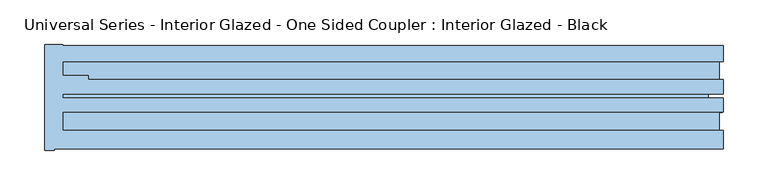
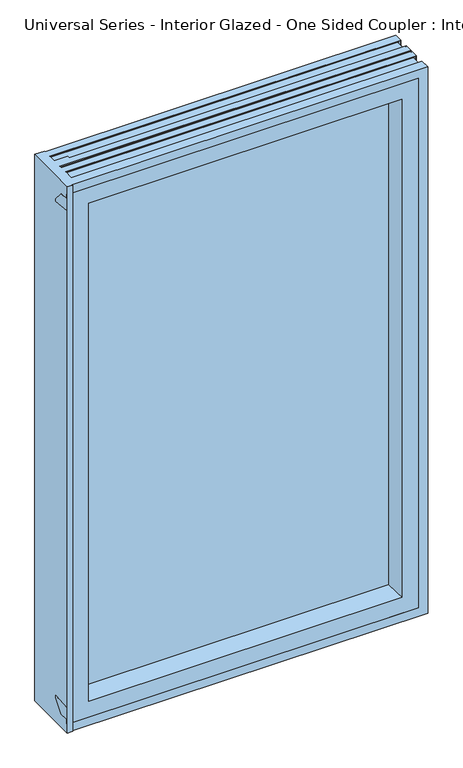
"""IFC4 building model written with IfcOpenShell, lengths in millimetres: window geometry, Universal Series - Interior Glazed - One Sided Coupler : Interior Glazed - Black."""

import ifcopenshell
import ifcopenshell.guid

model = None  # the IFC model being written
_history = None  # IfcOwnerHistory: only IFC2X3 demands one
_inside = {}  # id of a spatial element -> (the spatial element, [elements in it])
_under = {}  # id of a project, library or spatial element -> (it, [spatial elements below it])
_declared = {}  # id of a project -> (the project, [libraries it declares])
_typed = {}  # id of a type object -> (the type object, [elements of that type])
_made_of = {}  # id of a material, layer set ... -> (it, [elements and type objects made of it])


def new_model(schema):
    """Start an empty IFC model of exactly this schema.

    Asked for "IFC4X3", IfcOpenShell would pick the latest addendum, in which some entities
    have other attributes; the version numbers below select the first issue.
    IFC2X3 requires an IfcOwnerHistory on every rooted entity: one is made here for all.
    """
    global model, _history
    if schema == "IFC4X3":
        model = ifcopenshell.file(schema_version=(4, 3, 0, 0))
    else:
        model = ifcopenshell.file(schema=schema)
    _inside.clear()
    _under.clear()
    _declared.clear()
    _typed.clear()
    _made_of.clear()
    _history = None
    if model.schema == "IFC2X3":
        org = make("IfcOrganization", Name="unknown")
        user = make(
            "IfcPersonAndOrganization",
            ThePerson=make("IfcPerson", FamilyName="unknown"),
            TheOrganization=org,
        )
        app = make(
            "IfcApplication",
            ApplicationDeveloper=org,
            Version="unknown",
            ApplicationFullName="unknown",
            ApplicationIdentifier="unknown",
        )
        _history = make(
            "IfcOwnerHistory",
            OwningUser=user,
            OwningApplication=app,
            ChangeAction="ADDED",
            CreationDate=0,
        )
    return model


def make(cls, **values):
    """One entity of the class cls with the attributes given. An attribute that is None is left unset."""
    return model.create_entity(
        cls, **{name: value for name, value in values.items() if value is not None}
    )


def rooted(cls, **values):
    """An entity with a GlobalId (a new one), such as an element, a storey or a relation."""
    return make(cls, GlobalId=ifcopenshell.guid.new(), OwnerHistory=_history, **values)


def si_unit(unit_type, name, prefix=None):
    """IfcSIUnit, for example si_unit("LENGTHUNIT", "METRE", prefix="MILLI")."""
    return make("IfcSIUnit", UnitType=unit_type, Prefix=prefix, Name=name)


def assignment(units):
    """IfcUnitAssignment: the units of a project."""
    return None if units is None else make("IfcUnitAssignment", Units=units)


def point(xyz):
    """IfcCartesianPoint."""
    return None if xyz is None else make("IfcCartesianPoint", Coordinates=xyz)


def direction(xyz):
    """IfcDirection."""
    return None if xyz is None else make("IfcDirection", DirectionRatios=xyz)


def frame(location, z_axis=None, x_axis=None):
    """IfcAxis2Placement3D, a coordinate frame: its origin and axes. An axis left out is left unset."""
    return make(
        "IfcAxis2Placement3D",
        Location=point(location),
        Axis=direction(z_axis),
        RefDirection=direction(x_axis),
    )


def origin():
    """The frame at (0, 0, 0) with its axes left unset."""
    return frame((0.0, 0.0, 0.0))


def place(relative_to, where):
    """IfcLocalPlacement: puts the frame where relative to a parent placement (None: the world)."""
    return make(
        "IfcLocalPlacement", PlacementRelTo=relative_to, RelativePlacement=where
    )


def context(
    kind, dimensions, precision=None, world=None, true_north=None, identifier=None
):
    """IfcGeometricRepresentationContext, for example the 3D "Model" context."""
    return make(
        "IfcGeometricRepresentationContext",
        ContextIdentifier=identifier,
        ContextType=kind,
        CoordinateSpaceDimension=dimensions,
        Precision=precision,
        WorldCoordinateSystem=world,
        TrueNorth=true_north,
    )


def project(units=None, contexts=None):
    """IfcProject with its units and contexts."""
    return rooted(
        "IfcProject",
        Name="project",
        RepresentationContexts=contexts,
        UnitsInContext=assignment(units),
    )


def spatial(cls, under=None, at=None, **own):
    """A site, building, storey or space (cls), placed at a placement, below another one or the project."""
    s = rooted(cls, ObjectPlacement=at, **own)
    if under is not None:
        _under.setdefault(under.id(), (under, []))[1].append(s)
    return s


def polyline(points):
    """IfcPolyline through the points."""
    return make("IfcPolyline", Points=[point(p) for p in points])


def circle_curve(where, radius):
    """IfcCircle in the frame where."""
    return make("IfcCircle", Position=where, Radius=radius)


def ellipse_curve(where, semi_axis1, semi_axis2):
    """IfcEllipse in the frame where."""
    return make(
        "IfcEllipse", Position=where, SemiAxis1=semi_axis1, SemiAxis2=semi_axis2
    )


def outline(outer, holes=None, kind="AREA"):
    """IfcArbitraryClosedProfileDef: a profile drawn as a closed curve; with holes, ...WithVoids."""
    if holes is None:
        return make("IfcArbitraryClosedProfileDef", ProfileType=kind, OuterCurve=outer)
    return make(
        "IfcArbitraryProfileDefWithVoids",
        ProfileType=kind,
        OuterCurve=outer,
        InnerCurves=holes,
    )


def extrude(swept, where, along, depth):
    """IfcExtrudedAreaSolid: the profile swept, set in the frame where, extruded along a direction by depth."""
    return make(
        "IfcExtrudedAreaSolid",
        SweptArea=swept,
        Position=where,
        ExtrudedDirection=direction(along),
        Depth=depth,
    )


def faces_of(points, faces, orient=None, outer=None):
    """IfcFace entities. A face is a list of loops; a loop is a list of indices into points, from 0.

    orient and outer hold one flag for each loop. By default every Orientation is true, the
    first loop of a face is its IfcFaceOuterBound and the others are IfcFaceBound.
    """
    made = []
    for i, loops in enumerate(faces):
        bounds = []
        for j, loop in enumerate(loops):
            is_outer = j == 0 if outer is None else outer[i][j]
            bounds.append(
                make(
                    "IfcFaceOuterBound" if is_outer else "IfcFaceBound",
                    Bound=make("IfcPolyLoop", Polygon=[points[k] for k in loop]),
                    Orientation=True if orient is None else orient[i][j],
                )
            )
        made.append(make("IfcFace", Bounds=bounds))
    return made


def faceted_brep(points, faces, orient=None, outer=None, voids=None):
    """IfcFacetedBrep: a solid bounded by flat faces; with voids (closed shells), ...WithVoids."""
    shared = [point(p) for p in points]
    hull = make("IfcClosedShell", CfsFaces=faces_of(shared, faces, orient, outer))
    if voids is None:
        return make("IfcFacetedBrep", Outer=hull)
    return make(
        "IfcFacetedBrepWithVoids",
        Outer=hull,
        Voids=[
            make(cls, CfsFaces=faces_of(shared, fs, o, b)) for cls, fs, o, b in voids
        ],
    )


def shape(context_of_items, identifier, shape_type, items):
    """IfcShapeRepresentation: the items that make up one representation, for example the "Body"."""
    return make(
        "IfcShapeRepresentation",
        ContextOfItems=context_of_items,
        RepresentationIdentifier=identifier,
        RepresentationType=shape_type,
        Items=items,
    )


def source(mapping_origin, context_of_items, identifier, shape_type, items):
    """IfcRepresentationMap: a shape defined once, which mapped items show again and again."""
    return make(
        "IfcRepresentationMap",
        MappingOrigin=mapping_origin,
        MappedRepresentation=shape(context_of_items, identifier, shape_type, items),
    )


def transform(
    local_origin,
    x_axis=None,
    y_axis=None,
    z_axis=None,
    scale=None,
    scale2=None,
    scale3=None,
    uniform=True,
):
    """IfcCartesianTransformationOperator3D, or its non-uniform kind. x_axis, y_axis, z_axis: its Axis1, 2, 3."""
    if uniform:
        return make(
            "IfcCartesianTransformationOperator3D",
            Axis1=direction(x_axis),
            Axis2=direction(y_axis),
            LocalOrigin=point(local_origin),
            Scale=scale,
            Axis3=direction(z_axis),
        )
    return make(
        "IfcCartesianTransformationOperator3DnonUniform",
        Axis1=direction(x_axis),
        Axis2=direction(y_axis),
        LocalOrigin=point(local_origin),
        Scale=scale,
        Axis3=direction(z_axis),
        Scale2=scale2,
        Scale3=scale3,
    )


def mapped(mapping_source, mapping_target):
    """IfcMappedItem: shows the shape of a source again, moved by a transform."""
    return make(
        "IfcMappedItem", MappingSource=mapping_source, MappingTarget=mapping_target
    )


def made_of(thing, what):
    """Note that an element or type object is made of a material, layer set ...; save() writes the relation."""
    if what is not None:
        _made_of.setdefault(what.id(), (what, []))[1].append(thing)
    return thing


def element(
    cls,
    number,
    at=None,
    inside=None,
    cuts=None,
    type_object=None,
    material=None,
    context=None,
    identifier="Body",
    shape_type=None,
    held_by="IfcProductDefinitionShape",
    body=None,
    shapes=None,
    **own,
):
    """One element of the class cls, such as IfcWall. Its Tag is "e" and its number.

    at: its placement. inside: the storey or other place that contains it. cuts: it is an
    opening in that element (IfcRelVoidsElement). A single representation is given by context,
    identifier, shape_type and body (its items); several are given by shapes. held_by: the class
    of the entity that holds the representations. save() writes the other relations.
    """
    e = rooted(cls, Tag="e%d" % number, ObjectPlacement=at, **own)
    if body is not None:
        shapes = [shape(context, identifier, shape_type, body)]
    if shapes is not None:
        e.Representation = make(held_by, Representations=shapes)
    if inside is not None:
        _inside.setdefault(inside.id(), (inside, []))[1].append(e)
    if cuts is not None:
        rooted(
            "IfcRelVoidsElement", RelatingBuildingElement=cuts, RelatedOpeningElement=e
        )
    if type_object is not None:
        _typed.setdefault(type_object.id(), (type_object, []))[1].append(e)
    return made_of(e, material)


def aggregate(whole, parts):
    """IfcRelAggregates: a whole, such as a stair, and the parts it consists of."""
    return rooted("IfcRelAggregates", RelatingObject=whole, RelatedObjects=parts)


def save(model, path):
    """Write the relations noted so far, then the file.

    IfcRelAggregates (storeys below a building ...), IfcRelContainedInSpatialStructure (elements
    in a storey), IfcRelDefinesByType, IfcRelAssociatesMaterial and IfcRelDeclares: one each for
    every whole, place, type object, material and project.
    """
    for whole, parts in _under.values():
        aggregate(whole, parts)
    for where, things in _inside.values():
        rooted(
            "IfcRelContainedInSpatialStructure",
            RelatedElements=things,
            RelatingStructure=where,
        )
    for kind, things in _typed.values():
        rooted("IfcRelDefinesByType", RelatedObjects=things, RelatingType=kind)
    for what, things in _made_of.values():
        rooted("IfcRelAssociatesMaterial", RelatedObjects=things, RelatingMaterial=what)
    for by, libraries in _declared.values():
        rooted("IfcRelDeclares", RelatingContext=by, RelatedDefinitions=libraries)
    model.write(path)


def plane_surface(at):
    """IfcPlane: the flat surface through the origin of the frame at, square to its z axis."""
    return make("IfcPlane", Position=at)


def revolved_surface(curve, axis_point, axis_direction):
    """IfcSurfaceOfRevolution: the curve turned about the line through axis_point along axis_direction."""
    return make(
        "IfcSurfaceOfRevolution",
        SweptCurve=make("IfcArbitraryOpenProfileDef", ProfileType="CURVE", Curve=curve),
        AxisPosition=make("IfcAxis1Placement", Location=point(axis_point), Axis=direction(axis_direction)),
    )


def advanced_brep(points, edges, surfaces, faces):
    """IfcAdvancedBrep: a solid bounded by faces that lie on surfaces and meet in shared edges.

    An edge is (start, end): straight between two places in points (the first is 0);
    or (start, end, curve); or (start, end, curve, False) where it runs against its curve.
    A face is (place in surfaces, loops), or (place, loops, False) where it looks against
    its surface's normal. A loop lists edges by number (the first is 1), with a minus sign
    where the edge is run from its end to its start. The first loop is the outer one.
    """
    corners = [point(p) for p in points]
    vertices = [make("IfcVertexPoint", VertexGeometry=c) for c in corners]
    made = []
    for start, end, *more in edges:
        made.append(
            make(
                "IfcEdgeCurve",
                EdgeStart=vertices[start],
                EdgeEnd=vertices[end],
                EdgeGeometry=more[0] if more else make("IfcPolyline", Points=[corners[start], corners[end]]),
                SameSense=more[1] if len(more) > 1 else True,
            )
        )
    hull = []
    for where, loops, *sense in faces:
        bounds = []
        for j, loop in enumerate(loops):
            ring = [make("IfcOrientedEdge", EdgeElement=made[abs(k) - 1], Orientation=k > 0) for k in loop]
            bounds.append(
                make(
                    "IfcFaceOuterBound" if j == 0 else "IfcFaceBound",
                    Bound=make("IfcEdgeLoop", EdgeList=ring),
                    Orientation=True,
                )
            )
        hull.append(make("IfcAdvancedFace", Bounds=bounds, FaceSurface=surfaces[where], SameSense=sense[0] if sense else True))
    return make("IfcAdvancedBrep", Outer=make("IfcClosedShell", CfsFaces=hull))


def universal_series_interior_glazed_one_sided_coupler_interior_eb198598(model_context):
    return source(origin(), model_context, "Body", "SolidModel", [
        faceted_brep([(-304.8, 30.15, 815.975), (-304.8, 71.425, 820.7375), (-304.8, 71.425, 814.3875), (-304.8, 50.7875, 790.575), (-304.8, 31.7375, 790.575), (-304.8, 31.7375, 781.05), (-304.8, 30.15, 781.05), (-284.1625, 31.7375, 781.05), (-284.1625, 50.7875, 781.05), (-260.35, 71.425, 781.05), (-254.0, 71.425, 781.05), (-258.5793269, 31.7375, 781.05), (438.15, 31.7375, 781.05), (438.15, 30.15, 781.05), (-284.1625, 31.7375, 790.575), (438.15, 31.7375, 1962.15), (-258.5793269, 31.7375, 790.575), (428.625, 31.7375, 790.575), (428.625, 31.7375, 1952.625), (-258.5793269, 31.7375, 1952.625), (-258.5793269, 31.7375, 1962.15), (-284.1625, 31.7375, 1927.0418269), (-284.1625, 31.7375, 816.1581731), (-293.6875, 31.7375, 816.1581731), (-293.6875, 31.7375, 1927.0418269), (-304.8, 31.7375, 1962.15), (-284.1625, 31.7375, 1962.15), (-284.1625, 31.7375, 1952.625), (-304.8, 31.7375, 1952.625), (-284.1625, 50.7875, 790.575), (-284.1625, 50.7875, 1924.84375), (-284.1625, 50.7875, 818.35625), (-284.1625, 50.7875, 1962.15), (-284.1625, 50.7875, 1952.625), (-260.35, 71.425, 814.3875), (-260.35, 71.425, 1922.4625), (-260.35, 71.425, 820.7375), (-260.35, 71.425, 1962.15), (-260.35, 71.425, 1928.8125), (-254.0, 71.425, 1962.15), (-254.0, 71.425, 1928.8125), (404.8125, 71.425, 1928.8125), (404.8125, 71.425, 814.3875), (-254.0, 71.425, 814.3875), (-304.8, 71.425, 1922.4625), (-304.8, 71.425, 1928.8125), (-254.0, 71.425, 1922.4625), (-254.0, 71.425, 820.7375), (398.4625, 71.425, 820.7375), (398.4625, 71.425, 1922.4625), (-256.38125, 50.7875, 790.575), (-258.7625, 30.15, 1927.225), (-258.7625, 30.15, 815.975), (-256.38125, 50.7875, 1952.625), (438.15, 30.15, 1962.15), (-304.8, 30.15, 1962.15), (-304.8, 30.15, 1927.225), (-293.6875, 30.15, 1927.225), (-293.6875, 30.15, 815.975), (403.225, 30.15, 1927.225), (403.225, 30.15, 815.975), (428.625, 50.7875, 790.575), (428.625, 50.7875, 1952.625), (-304.8, 50.7875, 1952.625)], [[[0, 1, 2, 3, 4, 5, 6]], [[6, 5, 7, 8, 9, 10, 11, 12, 13]], [[7, 5, 4, 14]], [[15, 12, 11, 16, 17, 18, 19, 20]], [[21, 22, 23, 24]], [[25, 26, 27, 28]], [[8, 7, 14, 29]], [[30, 31, 22, 21]], [[26, 32, 33, 27]], [[9, 8, 29, 34]], [[35, 36, 31, 30]], [[32, 37, 38, 33]], [[37, 39, 40, 41, 42, 43, 10, 9, 34, 2, 1, 36, 35, 44, 45, 38], [46, 47, 48, 49]], [[11, 10, 43, 50, 16]], [[51, 52, 47, 46]], [[39, 20, 19, 53, 40]], [[13, 12, 15, 54]], [[54, 55, 56, 57, 58, 0, 6, 13], [52, 51, 59, 60]], [[1, 0, 58, 23, 22, 31, 36]], [[60, 48, 47, 52]], [[3, 2, 34, 29]], [[42, 61, 50, 43]], [[14, 4, 3, 29]], [[61, 17, 16, 50]], [[61, 42, 41, 62]], [[48, 60, 59, 49]], [[17, 61, 62, 18]], [[24, 23, 58, 57]], [[39, 37, 32, 26, 25, 55, 54, 15, 20]], [[45, 44, 56, 55, 25, 28, 63]], [[56, 44, 35, 30, 21, 24, 57]], [[49, 59, 51, 46]], [[63, 28, 27, 33]], [[18, 62, 53, 19]], [[45, 63, 33, 38]], [[62, 41, 40, 53]]]),
        advanced_brep(
        [(-293.6875, 28.5625, 1981.2), (-304.8, 28.5625, 1981.2), (-304.8, 28.5625, 762.0), (-293.6875, 28.5625, 762.0), (-304.8, 147.625, 1981.2), (-304.8, 147.625, 762.0), (-284.1625, 147.625, 1981.2), (-284.1625, 147.625, 762.0), (-284.1625, 146.0375, 762.0), (457.2, 146.0375, 762.0), (457.2, 128.575, 762.0), (-284.1625, 128.575, 762.0), (-284.1625, 112.7, 762.0), (-255.5875, 112.7, 762.0), (-255.5875, 107.9375, 762.0), (457.2, 107.9375, 762.0), (457.2, 92.0625, 762.0), (-284.1625, 92.0625, 762.0), (-284.1625, 87.3, 762.0), (457.2, 87.3, 762.0), (457.2, 71.425, 762.0), (-284.1625, 71.425, 762.0), (-284.1625, 50.7875, 762.0), (457.2, 50.7875, 762.0), (457.2, 30.15, 762.0), (-293.6875, 30.15, 762.0), (-284.1625, 112.7, 766.7625), (-255.5875, 112.7, 766.7625), (428.625, 112.7, 1952.625), (428.625, 112.7, 790.575), (-284.1625, 112.7, 790.575), (-284.1625, 112.7, 1952.625), (400.05, 112.7, 1924.05), (-255.5875, 112.7, 1924.05), (-255.5875, 112.7, 819.15), (400.05, 112.7, 819.15), (-284.1625, 112.7, 1981.2), (-255.5875, 112.7, 1981.2), (-255.5875, 112.7, 1976.4375), (-284.1625, 112.7, 1976.4375), (428.625, 146.0375, 790.575), (-284.1625, 146.0375, 790.575), (428.625, 146.0375, 1952.625), (457.2, 146.0375, 1981.2), (-284.1625, 146.0375, 1952.625), (-284.1625, 146.0375, 1981.2), (-284.1625, 128.575, 763.190625), (-284.1625, 131.75, 764.778125), (-284.1625, 131.75, 766.7625), (-284.1625, 128.575, 1981.2), (-284.1625, 131.75, 1976.4375), (-284.1625, 131.75, 1978.421875), (-284.1625, 128.575, 1980.009375), (400.05, 100.0, 819.15), (400.05, 100.0, 1924.05), (-255.5875, 100.0, 819.15), (-255.5875, 104.7625, 766.7625), (-255.5875, 104.7625, 764.778125), (-255.5875, 107.9375, 763.190625), (-255.5875, 100.0, 1924.05), (-255.5875, 107.9375, 1981.2), (-255.5875, 107.9375, 1980.009375), (-255.5875, 104.7625, 1978.421875), (-255.5875, 104.7625, 1976.4375), (428.625, 100.0, 790.575), (428.625, 100.0, 1952.625), (-284.1625, 100.0, 1952.625), (-284.1625, 100.0, 790.575), (428.625, 44.4375, 790.575), (428.625, 44.4375, 1952.625), (-284.1625, 44.4375, 790.575), (-284.1625, 92.0625, 763.5875), (-284.1625, 87.3, 763.5875), (-284.1625, 71.425, 763.190625), (-284.1625, 74.6, 764.778125), (-284.1625, 74.6, 766.7625), (-284.1625, 47.6125, 766.7625), (-284.1625, 47.6125, 764.778125), (-284.1625, 50.7875, 763.190625), (-284.1625, 44.4375, 1952.625), (-284.1625, 71.425, 1981.2), (-284.1625, 50.7875, 1981.2), (-284.1625, 50.7875, 1980.009375), (-284.1625, 47.6125, 1978.421875), (-284.1625, 47.6125, 1976.4375), (-284.1625, 74.6, 1976.4375), (-284.1625, 74.6, 1978.421875), (-284.1625, 71.425, 1980.009375), (-284.1625, 92.0625, 1981.2), (-284.1625, 87.3, 1981.2), (-284.1625, 87.3, 1979.6125), (-284.1625, 92.0625, 1979.6125), (438.15, 44.4375, 781.05), (438.15, 44.4375, 1962.15), (-293.6875, 44.4375, 1962.15), (-293.6875, 44.4375, 781.05), (452.4375, 131.75, 766.7625), (452.4375, 104.7625, 766.7625), (438.15, 30.15, 1962.15), (438.15, 30.15, 781.05), (-293.6875, 30.15, 781.05), (457.2, 30.15, 1981.2), (-293.6875, 30.15, 1981.2), (-293.6875, 30.15, 1962.15), (457.2, 50.7875, 1981.2), (457.2, 128.575, 1981.2), (456.009375, 71.425, 1980.009375), (456.009375, 71.425, 763.190625), (457.2, 71.425, 1981.2), (454.421875, 74.6, 764.778125), (452.4375, 74.6, 1976.4375), (452.4375, 74.6, 766.7625), (454.421875, 74.6, 1978.421875), (452.4375, 47.6125, 766.7625), (454.421875, 47.6125, 1978.421875), (454.421875, 47.6125, 764.778125), (452.4375, 47.6125, 1976.4375), (456.009375, 50.7875, 763.190625), (456.009375, 50.7875, 1980.009375), (455.6125, 92.0625, 1979.6125), (455.6125, 92.0625, 763.5875), (457.2, 92.0625, 1981.2), (455.6125, 87.3, 763.5875), (457.2, 87.3, 1981.2), (455.6125, 87.3, 1979.6125), (454.421875, 104.7625, 1978.421875), (454.421875, 104.7625, 764.778125), (452.4375, 104.7625, 1976.4375), (456.009375, 107.9375, 763.190625), (457.2, 107.9375, 1981.2), (456.009375, 107.9375, 1980.009375), (456.009375, 128.575, 1980.009375), (456.009375, 128.575, 763.190625), (454.421875, 131.75, 764.778125), (452.4375, 131.75, 1976.4375), (454.421875, 131.75, 1978.421875)],
        [
            (0, 1),
            (1, 2),
            (2, 3),
            (3, 0),
            (1, 4),
            (4, 5),
            (5, 2),
            (4, 6),
            (6, 7),
            (7, 5),
            (7, 8),
            (8, 9),
            (9, 10),
            (10, 11),
            (11, 12),
            (12, 13),
            (13, 14),
            (14, 15),
            (15, 16),
            (16, 17),
            (17, 18),
            (18, 19),
            (19, 20),
            (20, 21),
            (21, 22),
            (22, 23),
            (23, 24),
            (24, 25),
            (25, 3),
            (12, 26),
            (26, 27),
            (27, 13),
            (28, 29),
            (29, 30),
            (30, 31),
            (31, 28),
            (32, 33),
            (33, 34),
            (34, 35),
            (35, 32),
            (36, 37),
            (37, 38),
            (38, 39),
            (39, 36),
            (29, 40),
            (40, 41),
            (41, 30),
            (28, 42),
            (42, 40),
            (43, 9),
            (8, 41),
            (42, 44),
            (44, 45),
            (45, 43),
            (6, 45),
            (44, 31),
            (11, 46),
            (46, 47),
            (47, 48),
            (48, 26),
            (49, 36),
            (39, 50),
            (50, 51),
            (51, 52),
            (52, 49),
            (35, 53),
            (53, 54),
            (54, 32),
            (34, 55),
            (55, 53),
            (27, 56),
            (56, 57),
            (57, 58),
            (58, 14),
            (33, 59),
            (59, 55),
            (37, 60),
            (60, 61),
            (61, 62),
            (62, 63),
            (63, 38),
            (64, 65),
            (65, 66),
            (66, 67),
            (67, 64),
            (59, 54),
            (64, 68),
            (68, 69),
            (69, 65),
            (67, 70),
            (70, 68),
            (17, 71),
            (71, 72, circle_curve(frame((-284.1625, 89.68125, 771.1593924), z_axis=(1.0, 0.0, 0.0), x_axis=(0.0, -1.0, 0.0)), 7.9375)),
            (72, 18),
            (21, 73),
            (73, 74),
            (74, 75),
            (75, 76),
            (76, 77),
            (77, 78),
            (78, 22),
            (66, 79),
            (79, 70),
            (80, 81),
            (81, 82),
            (82, 83),
            (83, 84),
            (84, 85),
            (85, 86),
            (86, 87),
            (87, 80),
            (88, 89),
            (89, 90),
            (90, 91, circle_curve(frame((-284.1625, 89.68125, 1972.0406076), z_axis=(1.0, 0.0, 0.0), x_axis=(0.0, -1.0, 0.0)), 7.9375)),
            (91, 88),
            (92, 93),
            (93, 94),
            (94, 95),
            (95, 92),
            (79, 69),
            (96, 97),
            (97, 56),
            (48, 96),
            (98, 99),
            (99, 100),
            (100, 25),
            (24, 101),
            (101, 102),
            (102, 103),
            (103, 98),
            (98, 93),
            (92, 99),
            (95, 100),
            (94, 103),
            (102, 0),
            (23, 104),
            (104, 101),
            (43, 105),
            (105, 10),
            (106, 107),
            (107, 73),
            (20, 108),
            (108, 80),
            (87, 106),
            (107, 109),
            (109, 74),
            (110, 111),
            (111, 75),
            (109, 112),
            (112, 86),
            (85, 110),
            (111, 113),
            (113, 76),
            (114, 115),
            (115, 77),
            (113, 116),
            (116, 84),
            (83, 114),
            (115, 117),
            (117, 78),
            (117, 118),
            (118, 82),
            (81, 104),
            (119, 120),
            (120, 71),
            (16, 121),
            (121, 88),
            (91, 119),
            (120, 122, ellipse_curve(frame((448.0406076, 89.68125, 771.1593924), z_axis=(0.7071067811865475, 0.0, 0.7071067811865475), x_axis=(-0.7071067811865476, 0.0, 0.7071067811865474)), 11.2253202, 7.9375)),
            (122, 72),
            (123, 19),
            (122, 124),
            (124, 90),
            (89, 123),
            (125, 126),
            (126, 57),
            (97, 127),
            (127, 63),
            (62, 125),
            (126, 128),
            (128, 58),
            (129, 15),
            (128, 130),
            (130, 61),
            (60, 129),
            (131, 132),
            (132, 46),
            (105, 49),
            (52, 131),
            (132, 133),
            (133, 47),
            (134, 96),
            (133, 135),
            (135, 51),
            (50, 134),
            (114, 118),
            (110, 116),
            (106, 112),
            (123, 108),
            (119, 124, ellipse_curve(frame((448.0406076, 89.68125, 1972.0406076), z_axis=(-0.7071067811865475, 0.0, 0.7071067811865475), x_axis=(-0.7071067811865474, 0.0, -0.7071067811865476)), 11.2253202, 7.9375)),
            (129, 121),
            (125, 130),
            (134, 127),
            (131, 135),
        ],
        [
            plane_surface(frame((-304.8, 28.5625, 1981.2), z_axis=(0.0, -1.0, 0.0), x_axis=(0.0, 0.0, -1.0))),
            plane_surface(frame((-304.8, 100.0, 1981.2), z_axis=(-1.0, 0.0, 0.0), x_axis=(0.0, -1.0, 0.0))),
            plane_surface(frame((-284.1625, 147.625, 1981.2), z_axis=(0.0, 1.0, 0.0), x_axis=(0.0, 0.0, -1.0))),
            plane_surface(frame((457.2, 30.15, 762.0), z_axis=(0.0, 0.0, -1.0), x_axis=(-1.0, 0.0, 0.0))),
            plane_surface(frame((-304.8, 112.7, 1952.625), z_axis=(0.0, 1.0, 0.0), x_axis=(1.0, 0.0, 0.0))),
            plane_surface(frame((428.625, 146.0375, 790.575), z_axis=(0.0, 0.0, 1.0), x_axis=(-1.0, 0.0, 0.0))),
            plane_surface(frame((428.625, 146.0375, 1952.625), z_axis=(-1.0, 0.0, 0.0), x_axis=(0.0, 0.0, -1.0))),
            plane_surface(frame((-304.8, 146.0375, 1981.2), z_axis=(0.0, 1.0, 0.0), x_axis=(1.0, 0.0, 0.0))),
            plane_surface(frame((-284.1625, 112.7, 1981.2), z_axis=(1.0, 0.0, 0.0), x_axis=(0.0, 0.0, -1.0))),
            plane_surface(frame((400.05, 112.7, 1924.05), z_axis=(-1.0, 0.0, 0.0), x_axis=(0.0, 0.0, -1.0))),
            plane_surface(frame((400.05, 112.7, 819.15), z_axis=(0.0, 0.0, 1.0), x_axis=(-1.0, 0.0, 0.0))),
            plane_surface(frame((-255.5875, 100.0, 1981.2), z_axis=(1.0, 0.0, 0.0), x_axis=(0.0, 0.0, -1.0))),
            plane_surface(frame((-304.8, 100.0, 1924.05), z_axis=(0.0, -1.0, 0.0), x_axis=(1.0, 0.0, 0.0))),
            plane_surface(frame((428.625, 100.0, 1952.625), z_axis=(-1.0, 0.0, 0.0), x_axis=(0.0, 0.0, -1.0))),
            plane_surface(frame((428.625, 100.0, 790.575), z_axis=(0.0, 0.0, 1.0), x_axis=(-1.0, 0.0, 0.0))),
            plane_surface(frame((-284.1625, 44.4375, 1981.2), z_axis=(1.0, 0.0, 0.0), x_axis=(0.0, 0.0, -1.0))),
            plane_surface(frame((-304.8, 44.4375, 1952.625), z_axis=(0.0, -1.0, 0.0), x_axis=(1.0, 0.0, 0.0))),
            plane_surface(frame((452.4375, 104.7625, 766.7625), z_axis=(0.0, 0.0, -1.0), x_axis=(-1.0, 0.0, 0.0))),
            plane_surface(frame((-304.8, 30.15, 1962.15), z_axis=(0.0, -1.0, 0.0), x_axis=(1.0, 0.0, 0.0))),
            plane_surface(frame((438.15, 44.4375, 1962.15), z_axis=(-1.0, 0.0, 0.0), x_axis=(0.0, 0.0, -1.0))),
            plane_surface(frame((438.15, 44.4375, 781.05), z_axis=(0.0, 0.0, 1.0), x_axis=(-1.0, 0.0, 0.0))),
            plane_surface(frame((-293.6875, 28.5625, 1981.2), z_axis=(1.0, 0.0, 0.0), x_axis=(0.0, 0.0, -1.0))),
            plane_surface(frame((457.2, 30.15, 1981.2), z_axis=(1.0, 0.0, 0.0), x_axis=(0.0, 0.0, -1.0))),
            plane_surface(frame((457.2, 128.575, 1981.2), z_axis=(1.0, 0.0, 0.0), x_axis=(0.0, 0.0, -1.0))),
            plane_surface(frame((-304.8, 71.425, 1980.009375), z_axis=(0.0, -1.0, 0.0), x_axis=(1.0, 0.0, 0.0))),
            plane_surface(frame((454.421875, 74.6, 764.778125), z_axis=(0.0, -0.4472135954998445, 0.8944271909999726), x_axis=(-1.0, 0.0, 0.0))),
            plane_surface(frame((-304.8, 74.6, 1976.4375), z_axis=(0.0, -1.0, 0.0), x_axis=(1.0, 0.0, 0.0))),
            plane_surface(frame((452.4375, 47.6125, 766.7625), z_axis=(0.0, 0.0, -1.0), x_axis=(-1.0, 0.0, 0.0))),
            plane_surface(frame((-304.8, 47.6125, 1978.421875), z_axis=(0.0, 1.0, 0.0), x_axis=(1.0, 0.0, 0.0))),
            plane_surface(frame((456.009375, 50.7875, 763.190625), z_axis=(0.0, 0.44721359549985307, 0.8944271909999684), x_axis=(-1.0, 0.0, 0.0))),
            plane_surface(frame((-304.8, 50.7875, 1981.2), z_axis=(0.0, 1.0, 0.0), x_axis=(1.0, 0.0, 0.0))),
            plane_surface(frame((-304.8, 92.0625, 1979.6125), z_axis=(0.0, -1.0, 0.0), x_axis=(1.0, 0.0, 0.0))),
            revolved_surface(polyline([(-284.16249999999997, 81.74375, 771.1593924), (455.9781076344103, 81.74375, 771.1593924)]), (457.2, 89.68125, 771.1593924), (-1.0, 0.0, 0.0)),
            plane_surface(frame((-304.8, 87.3, 1981.2), z_axis=(0.0, 1.0, 0.0), x_axis=(1.0, 0.0, 0.0))),
            plane_surface(frame((-304.8, 104.7625, 1978.421875), z_axis=(0.0, 1.0, 0.0), x_axis=(1.0, 0.0, 0.0))),
            plane_surface(frame((456.009375, 107.9375, 763.190625), z_axis=(0.0, 0.44721359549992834, 0.8944271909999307), x_axis=(-1.0, 0.0, 0.0))),
            plane_surface(frame((-304.8, 107.9375, 1981.2), z_axis=(0.0, 1.0, 0.0), x_axis=(1.0, 0.0, 0.0))),
            plane_surface(frame((-304.8, 128.575, 1980.009375), z_axis=(0.0, -1.0, 0.0), x_axis=(1.0, 0.0, 0.0))),
            plane_surface(frame((454.421875, 131.75, 764.778125), z_axis=(0.0, -0.44721359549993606, 0.8944271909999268), x_axis=(-1.0, 0.0, 0.0))),
            plane_surface(frame((-304.8, 131.75, 1976.4375), z_axis=(0.0, -1.0, 0.0), x_axis=(1.0, 0.0, 0.0))),
            plane_surface(frame((456.009375, 50.7875, 1980.009375), z_axis=(-0.8944271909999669, 0.44721359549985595, 0.0), x_axis=(0.0, 0.0, -1.0))),
            plane_surface(frame((452.4375, 47.6125, 1976.4375), z_axis=(1.0, 0.0, 0.0), x_axis=(0.0, 0.0, -1.0))),
            plane_surface(frame((454.421875, 74.6, 1978.421875), z_axis=(-0.894427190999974, -0.44721359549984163, 0.0), x_axis=(0.0, 0.0, -1.0))),
            plane_surface(frame((457.2, 71.425, 1981.2), z_axis=(1.0, 0.0, 0.0), x_axis=(0.0, 0.0, -1.0))),
            revolved_surface(polyline([(448.0406076, 81.74375, 763.2218923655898), (448.0406076, 81.74375, 1979.9781076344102)]), (448.0406076, 89.68125, 1981.2), (0.0, 0.0, -1.0)),
            plane_surface(frame((457.2, 92.0625, 1981.2), z_axis=(1.0, 0.0, 0.0), x_axis=(0.0, 0.0, -1.0))),
            plane_surface(frame((456.009375, 107.9375, 1980.009375), z_axis=(-0.8944271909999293, 0.4472135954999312, 0.0), x_axis=(0.0, 0.0, -1.0))),
            plane_surface(frame((452.4375, 104.7625, 1976.4375), z_axis=(1.0, 0.0, 0.0), x_axis=(0.0, 0.0, -1.0))),
            plane_surface(frame((454.421875, 131.75, 1978.421875), z_axis=(-0.8944271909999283, -0.44721359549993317, 0.0), x_axis=(0.0, 0.0, -1.0))),
            plane_surface(frame((-304.8, 146.0375, 1952.625), z_axis=(0.0, 0.0, -1.0), x_axis=(1.0, 0.0, 0.0))),
            plane_surface(frame((-304.8, 112.7, 1924.05), z_axis=(0.0, 0.0, -1.0), x_axis=(1.0, 0.0, 0.0))),
            plane_surface(frame((-304.8, 100.0, 1952.625), z_axis=(0.0, 0.0, -1.0), x_axis=(1.0, 0.0, 0.0))),
            plane_surface(frame((-304.8, 44.4375, 1962.15), z_axis=(0.0, 0.0, -1.0), x_axis=(1.0, 0.0, 0.0))),
            plane_surface(frame((-304.8, 30.15, 1981.2), z_axis=(0.0, 0.0, 1.0), x_axis=(1.0, 0.0, 0.0))),
            plane_surface(frame((-304.8, 50.7875, 1980.009375), z_axis=(0.0, 0.44721359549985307, -0.8944271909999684), x_axis=(1.0, 0.0, 0.0))),
            plane_surface(frame((-304.8, 47.6125, 1976.4375), z_axis=(0.0, 0.0, 1.0), x_axis=(1.0, 0.0, 0.0))),
            plane_surface(frame((-304.8, 74.6, 1978.421875), z_axis=(0.0, -0.4472135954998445, -0.8944271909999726), x_axis=(1.0, 0.0, 0.0))),
            revolved_surface(polyline([(455.97810763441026, 81.74375, 1972.0406076), (-284.1625, 81.74375, 1972.0406076)]), (-304.8, 89.68125, 1972.0406076), (1.0, 0.0, 0.0)),
            plane_surface(frame((-304.8, 107.9375, 1980.009375), z_axis=(0.0, 0.44721359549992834, -0.8944271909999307), x_axis=(1.0, 0.0, 0.0))),
            plane_surface(frame((-304.8, 104.7625, 1976.4375), z_axis=(0.0, 0.0, 1.0), x_axis=(1.0, 0.0, 0.0))),
            plane_surface(frame((-304.8, 131.75, 1978.421875), z_axis=(0.0, -0.44721359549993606, -0.8944271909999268), x_axis=(1.0, 0.0, 0.0))),
        ],
        [
            (0, [[1, 2, 3, 4]]),
            (1, [[-2, 5, 6, 7]]),
            (2, [[8, 9, 10, -6]]),
            (3, [[-7, -10, 11, 12, 13, 14, 15, 16, 17, 18, 19, 20, 21, 22, 23, 24, 25, 26, 27, 28, 29, -3]]),
            (4, [[-16, 30, 31, 32]]),
            (4, [[33, 34, 35, 36], [37, 38, 39, 40]]),
            (4, [[41, 42, 43, 44]]),
            (5, [[-34, 45, 46, 47]]),
            (6, [[-45, -33, 48, 49]]),
            (7, [[50, -12, 51, -46, -49, 52, 53, 54]]),
            (8, [[-9, 55, -53, 56, -35, -47, -51, -11]]),
            (8, [[-15, 57, 58, 59, 60, -30]]),
            (8, [[61, -44, 62, 63, 64, 65]]),
            (9, [[66, 67, 68, -40]]),
            (10, [[-66, -39, 69, 70]]),
            (11, [[-17, -32, 71, 72, 73, 74]]),
            (11, [[-38, 75, 76, -69]]),
            (11, [[77, 78, 79, 80, 81, -42]]),
            (12, [[82, 83, 84, 85], [-67, -70, -76, 86]]),
            (13, [[87, 88, 89, -82]]),
            (14, [[-87, -85, 90, 91]]),
            (15, [[-21, 92, 93, 94]]),
            (15, [[-25, 95, 96, 97, 98, 99, 100, 101]]),
            (15, [[-84, 102, 103, -90]]),
            (15, [[104, 105, 106, 107, 108, 109, 110, 111]]),
            (15, [[112, 113, 114, 115]]),
            (16, [[116, 117, 118, 119], [-88, -91, -103, 120]]),
            (17, [[121, 122, -71, -31, -60, 123]]),
            (18, [[124, 125, 126, -28, 127, 128, 129, 130]]),
            (19, [[-124, 131, -116, 132]]),
            (20, [[-132, -119, 133, -125]]),
            (21, [[-4, -29, -126, -133, -118, 134, -129, 135]]),
            (22, [[-127, -27, 136, 137]]),
            (23, [[-50, 138, 139, -13]]),
            (24, [[140, 141, -95, -24, 142, 143, -111, 144]]),
            (25, [[145, 146, -96, -141]]),
            (26, [[147, 148, -97, -146, 149, 150, -109, 151]]),
            (27, [[152, 153, -98, -148]]),
            (28, [[154, 155, -99, -153, 156, 157, -107, 158]]),
            (29, [[159, 160, -100, -155]]),
            (30, [[-136, -26, -101, -160, 161, 162, -105, 163]]),
            (31, [[164, 165, -92, -20, 166, 167, -115, 168]]),
            (32, [[169, 170, -93, -165]]),
            (33, [[171, -22, -94, -170, 172, 173, -113, 174]]),
            (34, [[175, 176, -72, -122, 177, 178, -80, 179]]),
            (35, [[180, 181, -73, -176]]),
            (36, [[182, -18, -74, -181, 183, 184, -78, 185]]),
            (37, [[186, 187, -57, -14, -139, 188, -65, 189]]),
            (38, [[190, 191, -58, -187]]),
            (39, [[192, -123, -59, -191, 193, 194, -63, 195]]),
            (40, [[-161, -159, -154, 196]]),
            (41, [[-156, -152, -147, 197]]),
            (42, [[-149, -145, -140, 198]]),
            (43, [[-142, -23, -171, 199]]),
            (44, [[-172, -169, -164, 200]]),
            (45, [[-166, -19, -182, 201]]),
            (46, [[-183, -180, -175, 202]]),
            (47, [[-177, -121, -192, 203]]),
            (48, [[-193, -190, -186, 204]]),
            (49, [[-48, -36, -56, -52]]),
            (50, [[-68, -86, -75, -37]]),
            (51, [[-83, -89, -120, -102]]),
            (52, [[-117, -131, -130, -134]]),
            (53, [[-41, -61, -188, -138, -54, -55, -8, -5, -1, -135, -128, -137, -163, -104, -143, -199, -174, -112, -167, -201, -185, -77]]),
            (54, [[-196, -158, -106, -162]]),
            (55, [[-197, -151, -108, -157]]),
            (56, [[-198, -144, -110, -150]]),
            (57, [[-200, -168, -114, -173]]),
            (58, [[-202, -179, -79, -184]]),
            (59, [[-203, -195, -62, -43, -81, -178]]),
            (60, [[-204, -189, -64, -194]]),
        ],
    ),
        extrude(outline(polyline([(428.625, 100.0), (428.625, 94.840625), (-284.1625, 94.840625), (-284.1625, 100.0), (428.625, 100.0)])), frame((0.0, 0.0, 790.575), z_axis=(0.0, 0.0, 1.0), x_axis=(1.0, 0.0, 0.0)), (0.0, 0.0, 1.0), 1162.05),
        extrude(outline(polyline([(428.625, 76.584375), (428.625, 71.425), (-284.1625, 71.425), (-284.1625, 76.584375), (428.625, 76.584375)])), frame((0.0, 0.0, 790.575), z_axis=(0.0, 0.0, 1.0), x_axis=(1.0, 0.0, 0.0)), (0.0, 0.0, 1.0), 1162.05),
    ])


if __name__ == "__main__":
    model = new_model("IFC4")
    model_context = context("Model", 3, world=origin())
    ifc_project = project(units=[si_unit("LENGTHUNIT", "METRE", prefix="MILLI")], contexts=[model_context])
    site = spatial("IfcSite", under=ifc_project)
    building = spatial("IfcBuilding", under=site)
    placement = place(None, origin())
    universal_series_interior_glazed_one_sided_coupler_interior_shape = universal_series_interior_glazed_one_sided_coupler_interior_eb198598(model_context)
    element("IfcWindow", 1, ObjectType="Universal Series - Interior Glazed - One Sided Coupler : Interior Glazed - Black", at=placement, inside=building, context=model_context, shape_type="MappedRepresentation", body=[
        mapped(universal_series_interior_glazed_one_sided_coupler_interior_shape, transform((0.0, 0.0, 0.0), x_axis=(1.0, 0.0, 0.0), y_axis=(0.0, 1.0, 0.0), z_axis=(0.0, 0.0, 1.0))),
    ])
    save(model, "model.ifc")
